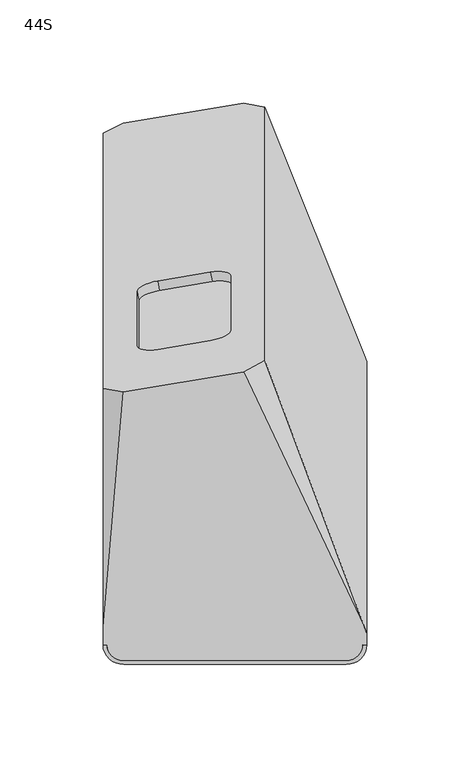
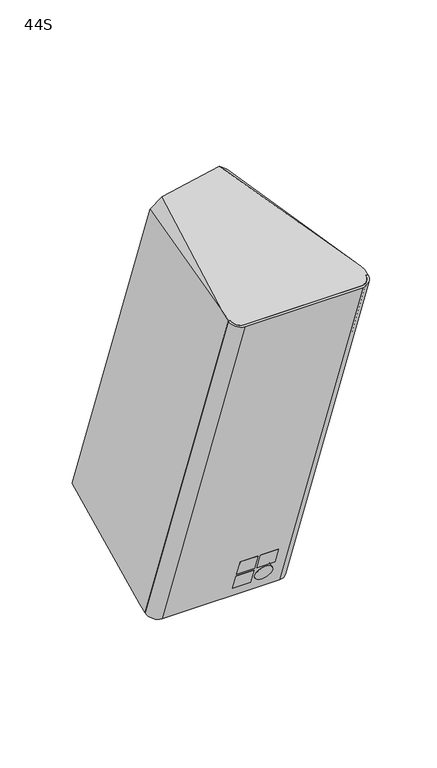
"""IFC4 building model written with IfcOpenShell, lengths in millimetres: proxy geometry, d&b xS-Series 44S Point Source : 44S."""

from ifc_helpers import new_model, si_unit, point, frame, frame_2d, origin, place, context, project, spatial, polyline, circle_curve, ellipse_curve, trimmed, segment, composite_curve, outline, extrude, source, transform, mapped, element, save
from ifc_brep_helpers import plane_surface, cylinder_surface, revolved_surface, advanced_brep


def proxy_44s_ea728750(model_context):
    return source(origin(), model_context, "Body", "SolidModel", [
        advanced_brep(
        [(-64.0, -128.129619, 159.0621446), (-62.0435242, -128.129619, 159.0621446), (-54.078429, -135.6612295, 156.4666939), (54.0, -135.6612295, 156.4666939), (62.0, -128.0966138, 159.0735185), (64.0, -128.0966138, 159.0735185), (64.0, -122.4891625, 161.0058892), (62.7855103, -119.3331677, 162.0934692), (4.3760941, 4.4543343, 204.7515916), (-54.074657, -5.2912021, 201.3932051), (-64.0, -119.3331677, 162.0934692), (-62.0435242, 4.0901931, -204.2088035), (-64.0, 4.0901931, -204.2088035), (-64.0, 12.7771637, -200.8766829), (-54.074657, 125.3997609, -157.6772648), (4.3760941, 135.0240042, -153.9856281), (62.7855103, 12.7771637, -200.8766829), (64.0, 9.6604484, -202.0721827), (64.0, 4.1227875, -204.1963011), (62.0, 4.1227875, -204.1963011), (54.0, -3.3476788, -207.0617988), (-54.078429, -3.3476788, -207.0617988), (-64.0, -3.6006545, 191.6314967), (-64.0, 120.4200903, -149.1126992), (14.5000481, 132.9559633, -143.0843726), (14.5000481, 9.877315, 195.0714344), (-11.9474751, 19.6646756, 154.5459781), (-37.5524767, 15.4221019, 153.0018075), (-47.4005542, 17.2105442, 143.0109696), (-47.4005542, 43.5460952, 70.6546378), (-37.5524767, 48.5980558, 61.8516233), (-11.9474751, 52.8406295, 63.3957938), (-2.0993976, 51.0521871, 73.3866318), (-2.0993976, 24.7166361, 145.7429636), (-11.0792343, 15.0375927, 152.8618576), (-1.2311567, 20.0895532, 144.0588431), (-1.2311567, 46.4251042, 71.7025113), (-11.0792343, 48.2135466, 61.7116734), (-36.6842358, 43.9709729, 60.1675029), (-46.5323134, 38.9190123, 68.9705173), (-46.5323134, 12.5834613, 141.3268491), (-36.6842358, 10.795019, 151.3176871)],
        [
            (0, 1),
            (1, 2, ellipse_curve(frame((-54.078429, -128.129619, 159.0621446), z_axis=(0.0, -0.325804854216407, 0.9454370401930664), x_axis=(0.0, -0.9454370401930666, -0.32580485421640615)), 7.9662739, 7.9650952)),
            (2, 3),
            (3, 4, ellipse_curve(frame((54.0, -128.0966138, 159.0735185), z_axis=(0.0, -0.325804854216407, 0.9454370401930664), x_axis=(0.0, -0.9454370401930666, -0.32580485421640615)), 8.0011839, 8.0)),
            (4, 5),
            (5, 6),
            (6, 7),
            (7, 8),
            (8, 9),
            (9, 10),
            (10, 0),
            (11, 12),
            (12, 13),
            (13, 14),
            (14, 15),
            (15, 16),
            (16, 17),
            (17, 18),
            (18, 19),
            (19, 20, ellipse_curve(frame((54.0, 4.1227875, -204.1963011), z_axis=(0.0, 0.3581342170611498, -0.9336701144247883), x_axis=(0.0, 0.9336701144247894, 0.35813421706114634)), 8.0011839, 8.0)),
            (20, 21),
            (21, 11, ellipse_curve(frame((-54.078429, 4.0901931, -204.2088035), z_axis=(0.0, 0.3581342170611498, -0.9336701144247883), x_axis=(0.0, 0.9336701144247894, 0.35813421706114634)), 7.9662739, 7.9650952)),
            (0, 12),
            (11, 1),
            (21, 2),
            (20, 3),
            (19, 4),
            (18, 5),
            (17, 6),
            (10, 22),
            (22, 23),
            (23, 13),
            (16, 24),
            (24, 25),
            (25, 7),
            (9, 22),
            (23, 14),
            (15, 24),
            (25, 8),
            (26, 27),
            (27, 28, circle_curve(frame((-37.5524767, 18.8423033, 143.6048813), z_axis=(0.17364817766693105, -0.9254165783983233, -0.33682408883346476), x_axis=(0.9848077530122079, 0.16317591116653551, 0.059391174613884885)), 10.0)),
            (28, 29),
            (29, 30, circle_curve(frame((-37.5524767, 45.1778543, 71.2485495), z_axis=(0.17364817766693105, -0.9254165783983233, -0.33682408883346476), x_axis=(0.9848077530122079, 0.16317591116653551, 0.059391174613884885)), 10.0)),
            (30, 31),
            (31, 32, circle_curve(frame((-11.9474751, 49.420428, 72.79272), z_axis=(0.17364817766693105, -0.9254165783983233, -0.33682408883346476), x_axis=(0.9848077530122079, 0.16317591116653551, 0.059391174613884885)), 10.0)),
            (32, 33),
            (33, 26, circle_curve(frame((-11.9474751, 23.084877, 145.1490518), z_axis=(0.17364817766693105, -0.9254165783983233, -0.33682408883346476), x_axis=(0.9848077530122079, 0.16317591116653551, 0.059391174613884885)), 10.0)),
            (34, 35, circle_curve(frame((-11.0792343, 18.4577941, 143.4649314), z_axis=(-0.17364817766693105, 0.9254165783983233, 0.33682408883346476), x_axis=(0.9848077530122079, 0.16317591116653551, 0.059391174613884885)), 10.0)),
            (35, 36),
            (36, 37, circle_curve(frame((-11.0792343, 44.7933451, 71.1085996), z_axis=(-0.17364817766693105, 0.9254165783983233, 0.33682408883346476), x_axis=(0.9848077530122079, 0.16317591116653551, 0.059391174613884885)), 10.0)),
            (37, 38),
            (38, 39, circle_curve(frame((-36.6842358, 40.5507714, 69.5644291), z_axis=(-0.17364817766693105, 0.9254165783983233, 0.33682408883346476), x_axis=(0.9848077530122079, 0.16317591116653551, 0.059391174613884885)), 10.0)),
            (39, 40),
            (40, 41, circle_curve(frame((-36.6842358, 14.2152204, 141.9207609), z_axis=(-0.17364817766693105, 0.9254165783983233, 0.33682408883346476), x_axis=(0.9848077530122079, 0.16317591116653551, 0.059391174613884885)), 10.0)),
            (41, 34),
            (41, 27),
            (26, 34),
            (40, 28),
            (39, 29),
            (38, 30),
            (37, 31),
            (36, 32),
            (35, 33),
        ],
        [
            plane_surface(frame((100.0, -157.7293536, 148.8618491), z_axis=(0.0, -0.325804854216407, 0.9454370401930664), x_axis=(-1.0, 0.0, 0.0))),
            plane_surface(frame((100.0, 144.1511169, -150.4846792), z_axis=(0.0, 0.3581342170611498, -0.9336701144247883), x_axis=(-1.0, 0.0, 0.0))),
            plane_surface(frame((-64.0, -132.8675629, 172.0795383), z_axis=(0.0, -0.9396926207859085, -0.3420201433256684), x_axis=(0.0, 0.3420201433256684, -0.9396926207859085))),
            cylinder_surface(frame((-54.078429, 8.8281369, -217.2261972), z_axis=(0.0, -0.3420201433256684, 0.9396926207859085), x_axis=(-1.0, 0.0, 0.0)), 7.9650952),
            plane_surface(frame((-54.078429, -140.352304, 169.3553153), z_axis=(0.0, -0.9396926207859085, -0.3420201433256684), x_axis=(0.0, 0.3420201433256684, -0.9396926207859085))),
            cylinder_surface(frame((54.0, 8.8609367, -217.2142591), z_axis=(0.0, -0.3420201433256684, 0.9396926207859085), x_axis=(-1.0, 0.0, 0.0)), 8.0),
            plane_surface(frame((62.0, -132.8347631, 172.0914765), z_axis=(0.0, -0.9396926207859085, -0.3420201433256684), x_axis=(0.0, 0.3420201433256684, -0.9396926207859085))),
            plane_surface(frame((64.0, -132.8347631, 172.0914765), z_axis=(1.0, 0.0, 0.0), x_axis=(0.0, 0.3420201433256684, -0.9396926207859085))),
            plane_surface(frame((-64.0, -127.2622069, 174.119721), z_axis=(-1.0, 0.0, 0.0), x_axis=(0.0, 0.3420201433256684, -0.9396926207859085))),
            plane_surface(frame((14.5000481, 71.4166392, 25.9935309), z_axis=(0.9397208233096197, 0.3213209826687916, 0.11695127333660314), x_axis=(0.0, -0.3420201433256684, 0.9396926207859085))),
            plane_surface(frame((-57.232233, 7.5626024, 201.431055), z_axis=(-0.7053631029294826, -0.1752970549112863, 0.6868288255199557), x_axis=(-0.7071067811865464, 0.241844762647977, -0.6644630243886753))),
            plane_surface(frame((-57.232233, 135.2706759, -149.4439933), z_axis=(-0.7053631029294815, 0.3071997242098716, -0.6388201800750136), x_axis=(0.7071067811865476, 0.24184476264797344, -0.6644630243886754))),
            plane_surface(frame((7.7322812, 135.2706759, -149.4439933), z_axis=(0.6719558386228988, 0.5224136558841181, -0.5249374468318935), x_axis=(0.7071067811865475, -0.24184476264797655, 0.6644630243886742))),
            plane_surface(frame((7.7322812, 7.5626024, 201.431055), z_axis=(0.6719558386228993, 0.06276879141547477, 0.7379264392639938), x_axis=(-0.7071067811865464, -0.24184476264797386, 0.6644630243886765))),
            plane_surface(frame((-81.2585403, -29.95494, 255.1417366), z_axis=(-0.17364817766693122, 0.9254165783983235, 0.3368240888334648), x_axis=(0.0, 0.3420201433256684, -0.9396926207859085))),
            plane_surface(frame((-63.1317591, 6.4128452, 149.7227063), z_axis=(-0.17364817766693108, 0.9254165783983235, 0.3368240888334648), x_axis=(-0.984807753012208, -0.1631759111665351, -0.05939117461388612))),
            plane_surface(frame((-11.0792343, 15.0375927, 152.8618576), z_axis=(0.0, 0.3420201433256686, -0.9396926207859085), x_axis=(-0.17364817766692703, 0.9254165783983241, 0.33682408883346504))),
            revolved_surface(polyline([(-26.836158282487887, 15.846979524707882, 142.51467260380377), (-27.7043991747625, 20.474062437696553, 144.1987930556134)]), (-37.5524767, 18.8423033, 143.6048813), (0.17364817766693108, -0.9254165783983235, -0.3368240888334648)),
            plane_surface(frame((-46.5323134, 12.5834613, 141.3268491), z_axis=(0.9848077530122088, 0.16317591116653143, 0.059391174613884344), x_axis=(-0.17364817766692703, 0.9254165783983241, 0.33682408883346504))),
            revolved_surface(polyline([(-26.836158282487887, 42.18253052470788, 70.1583408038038), (-27.70439918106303, 46.80961347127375, 71.84246126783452)]), (-37.5524767, 45.1778543, 71.2485495), (0.17364817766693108, -0.9254165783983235, -0.3368240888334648)),
            plane_surface(frame((-36.6842358, 43.9709729, 60.1675029), z_axis=(0.0, -0.3420201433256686, 0.9396926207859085), x_axis=(-0.17364817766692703, 0.9254165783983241, 0.33682408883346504))),
            revolved_surface(polyline([(-1.2311566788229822, 46.42510420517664, 71.70251129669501), (-2.0993975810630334, 51.05218717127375, 73.38663176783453)]), (-11.9474751, 49.420428, 72.79272), (0.17364817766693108, -0.9254165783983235, -0.3368240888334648)),
            plane_surface(frame((-1.2311567, 46.4251042, 71.7025113), z_axis=(-0.9848077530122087, -0.16317591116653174, -0.05939117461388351), x_axis=(-0.17364817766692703, 0.9254165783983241, 0.33682408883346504))),
            revolved_surface(polyline([(-1.2311566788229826, 20.089553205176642, 144.058843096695), (-2.0993975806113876, 24.71663616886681, 145.74296356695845)]), (-11.9474751, 23.084877, 145.1490518), (0.17364817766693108, -0.9254165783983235, -0.3368240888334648)),
        ],
        [
            (0, [[1, 2, 3, 4, 5, 6, 7, 8, 9, 10, 11]]),
            (1, [[12, 13, 14, 15, 16, 17, 18, 19, 20, 21, 22]]),
            (2, [[23, -12, 24, -1]]),
            (3, [[-24, -22, 25, -2]]),
            (4, [[-25, -21, 26, -3]]),
            (5, [[-26, -20, 27, -4]]),
            (6, [[-27, -19, 28, -5]]),
            (7, [[-28, -18, 29, -6]]),
            (8, [[-23, -11, 30, 31, 32, -13]]),
            (9, [[-29, -17, 33, 34, 35, -7]]),
            (10, [[-30, -10, 36]]),
            (11, [[-32, 37, -14]]),
            (12, [[-33, -16, 38]]),
            (13, [[-35, 39, -8]]),
            (14, [[-31, -36, -9, -39, -34, -38, -15, -37], [40, 41, 42, 43, 44, 45, 46, 47]]),
            (15, [[48, 49, 50, 51, 52, 53, 54, 55]]),
            (16, [[-55, 56, -40, 57]]),
            (17, [[-54, 58, -41, -56]]),
            (18, [[-53, 59, -42, -58]]),
            (19, [[-52, 60, -43, -59]]),
            (20, [[-51, 61, -44, -60]]),
            (21, [[-50, 62, -45, -61]]),
            (22, [[-49, 63, -46, -62]]),
            (23, [[-48, -57, -47, -63]]),
        ],
    ),
        extrude(outline(polyline([(0.0, -16.3333333), (0.0, 0.0), (5.0, 0.0), (5.0, -16.3333333), (0.0, -16.3333333)])), frame((27.6666667, -15.0524672, -180.8528206), z_axis=(0.0, -0.3420201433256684, 0.9396926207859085), x_axis=(0.0, 0.9396926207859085, 0.3420201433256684)), (0.0, 0.0, 1.0), 16.3333333),
        extrude(outline(polyline([(0.0, -16.3333333), (0.0, 0.0), (5.0, 0.0), (5.0, -16.3333333), (0.0, -16.3333333)])), frame((9.0, -15.0524672, -180.8528206), z_axis=(0.0, -0.3420201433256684, 0.9396926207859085), x_axis=(0.0, 0.9396926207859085, 0.3420201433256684)), (0.0, 0.0, 1.0), 16.3333333),
        extrude(outline(polyline([(0.0, -16.3333333), (0.0, 0.0), (5.0, 0.0), (5.0, -16.3333333), (0.0, -16.3333333)])), frame((9.0, -8.6680912, -198.3937495), z_axis=(0.0, -0.3420201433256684, 0.9396926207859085), x_axis=(0.0, 0.9396926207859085, 0.3420201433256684)), (0.0, 0.0, 1.0), 16.3333333),
        extrude(outline(composite_curve([segment(trimmed(circle_curve(frame_2d((36.1666667, -8.1666666)), 8.1666667), [point((44.3333333, -8.1666666))], [point((28.0, -8.1666666))], False, "CARTESIAN"), True, "CONTINUOUS"), segment(trimmed(circle_curve(frame_2d((36.1666667, -8.1666666)), 8.1666667), [point((28.0, -8.1666666))], [point((44.3333333, -8.1666666))], False, "CARTESIAN"), True, "CONTINUOUS")], self_intersect=False)), frame((27.6666667, -23.8309842, -156.7340433), z_axis=(0.0, 0.939692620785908, 0.3420201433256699), x_axis=(0.0, 0.3420201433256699, -0.939692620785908)), (0.0, 0.0, 1.0), 5.0),
        advanced_brep(
        [(54.0, -135.6612295, 156.4666939), (-54.078429, -135.6612295, 156.4666939), (-62.0435242, -128.129619, 159.0621446), (-64.0, -128.129619, 159.0621446), (-54.0, -137.5853886, 155.8036139), (54.0, -137.5853886, 155.8036139), (64.0349048, -128.0966138, 159.0735185), (62.0, -128.0966138, 159.0735185), (-54.078429, -3.3476788, -207.0617988), (54.0, -3.3476788, -207.0617988), (62.0, 4.1227875, -204.1963011), (64.0349048, 4.1227875, -204.1963011), (54.0, -5.2478898, -207.7906757), (-54.0, -5.2478898, -207.7906757), (-64.0, 4.0901931, -204.2088035), (-62.0435242, 4.0901931, -204.2088035)],
        [
            (0, 1),
            (1, 2, ellipse_curve(frame((-54.078429, -128.129619, 159.0621446), z_axis=(0.0, 0.325804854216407, -0.9454370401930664), x_axis=(0.0, 0.9454370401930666, 0.32580485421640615)), 7.9662739, 7.9650952)),
            (2, 3),
            (3, 4, ellipse_curve(frame((-54.0, -128.129619, 159.0621446), z_axis=(0.0, -0.325804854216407, 0.9454370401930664), x_axis=(0.0, -0.9454370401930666, -0.32580485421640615)), 10.0014799, 10.0)),
            (4, 5),
            (5, 6, ellipse_curve(frame((54.0, -128.0966138, 159.0735185), z_axis=(0.0, -0.325804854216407, 0.9454370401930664), x_axis=(0.0, -0.9454370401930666, -0.32580485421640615)), 10.0363899, 10.0349048)),
            (6, 7),
            (7, 0, ellipse_curve(frame((54.0, -128.0966138, 159.0735185), z_axis=(0.0, 0.325804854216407, -0.9454370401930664), x_axis=(0.0, 0.9454370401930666, 0.32580485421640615)), 8.0011839, 8.0)),
            (8, 9),
            (9, 10, ellipse_curve(frame((54.0, 4.1227875, -204.1963011), z_axis=(0.0, -0.3581342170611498, 0.9336701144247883), x_axis=(0.0, -0.9336701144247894, -0.35813421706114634)), 8.0011839, 8.0)),
            (10, 11),
            (11, 12, ellipse_curve(frame((54.0, 4.1227875, -204.1963011), z_axis=(0.0, 0.3581342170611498, -0.9336701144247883), x_axis=(0.0, 0.9336701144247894, 0.35813421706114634)), 10.0363899, 10.0349048)),
            (12, 13),
            (13, 14, ellipse_curve(frame((-54.0, 4.0901931, -204.2088035), z_axis=(0.0, 0.3581342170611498, -0.9336701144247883), x_axis=(0.0, 0.9336701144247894, 0.35813421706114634)), 10.0014799, 10.0)),
            (14, 15),
            (15, 8, ellipse_curve(frame((-54.078429, 4.0901931, -204.2088035), z_axis=(0.0, -0.3581342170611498, 0.9336701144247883), x_axis=(0.0, -0.9336701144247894, -0.35813421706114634)), 7.9662739, 7.9650952)),
            (0, 9),
            (8, 1),
            (15, 2),
            (14, 3),
            (13, 4),
            (12, 5),
            (11, 6),
            (10, 7),
        ],
        [
            plane_surface(frame((100.0, -157.7293536, 148.8618491), z_axis=(0.0, -0.325804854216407, 0.9454370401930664), x_axis=(-1.0, 0.0, 0.0))),
            plane_surface(frame((100.0, 144.1511169, -150.4846792), z_axis=(0.0, 0.3581342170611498, -0.9336701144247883), x_axis=(-1.0, 0.0, 0.0))),
            plane_surface(frame((54.0, -138.7635332, 164.9902033), z_axis=(0.0, 0.9396926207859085, 0.3420201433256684), x_axis=(0.0, 0.3420201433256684, -0.9396926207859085))),
            revolved_surface(polyline([(-46.1133338, 4.137062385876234, -204.33757579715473), (-46.1133338, -128.17648827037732, 159.1909169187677)]), (-54.078429, 7.2393661, -212.8610852), (0.0, 0.3420201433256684, -0.9396926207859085)),
            plane_surface(frame((-62.0435242, -131.278792, 167.7144262), z_axis=(0.0, 0.9396926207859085, 0.3420201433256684), x_axis=(0.0, 0.3420201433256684, -0.9396926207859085))),
            cylinder_surface(frame((-54.0, 7.2393661, -212.8610852), z_axis=(0.0, -0.3420201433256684, 0.9396926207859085), x_axis=(1.0, 0.0, 0.0)), 10.0),
            plane_surface(frame((-54.0, -140.6757182, 164.2942248), z_axis=(0.0, -0.9396926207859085, -0.3420201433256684), x_axis=(0.0, 0.3420201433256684, -0.9396926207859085))),
            cylinder_surface(frame((54.0, 7.2721658, -212.849147), z_axis=(0.0, -0.3420201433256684, 0.9396926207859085), x_axis=(1.0, 0.0, 0.0)), 10.0349048),
            plane_surface(frame((64.0349048, -131.2459922, 167.7263644), z_axis=(0.0, 0.9396926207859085, 0.3420201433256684), x_axis=(0.0, 0.3420201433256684, -0.9396926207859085))),
            revolved_surface(polyline([(62.0, 4.169862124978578, -204.32563770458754), (62.0, -128.1436885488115, 159.2028550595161)]), (54.0, 7.2721658, -212.849147), (0.0, 0.3420201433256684, -0.9396926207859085)),
        ],
        [
            (0, [[1, 2, 3, 4, 5, 6, 7, 8]]),
            (1, [[9, 10, 11, 12, 13, 14, 15, 16]]),
            (2, [[17, -9, 18, -1]]),
            (3, [[-18, -16, 19, -2]]),
            (4, [[-19, -15, 20, -3]]),
            (5, [[-20, -14, 21, -4]]),
            (6, [[-21, -13, 22, -5]]),
            (7, [[-22, -12, 23, -6]]),
            (8, [[-23, -11, 24, -7]]),
            (9, [[-17, -8, -24, -10]]),
        ],
    ),
    ])


if __name__ == "__main__":
    model = new_model("IFC4")
    model_context = context("Model", 3, world=origin())
    ifc_project = project(units=[si_unit("LENGTHUNIT", "METRE", prefix="MILLI")], contexts=[model_context])
    site = spatial("IfcSite", under=ifc_project)
    building = spatial("IfcBuilding", under=site)
    placement = place(None, origin())
    proxy_44s_shape = proxy_44s_ea728750(model_context)
    element("IfcBuildingElementProxy", 1, Name="d&b xS-Series 44S Point Source : 44S", ObjectType="d&b xS-Series 44S Point Source : 44S", at=placement, inside=building, context=model_context, shape_type="MappedRepresentation", body=[
        mapped(proxy_44s_shape, transform((0.0, 0.0, 0.0), x_axis=(1.0, 0.0, 0.0), y_axis=(0.0, 1.0, 0.0), z_axis=(0.0, 0.0, 1.0))),
    ])
    save(model, "model.ifc")
